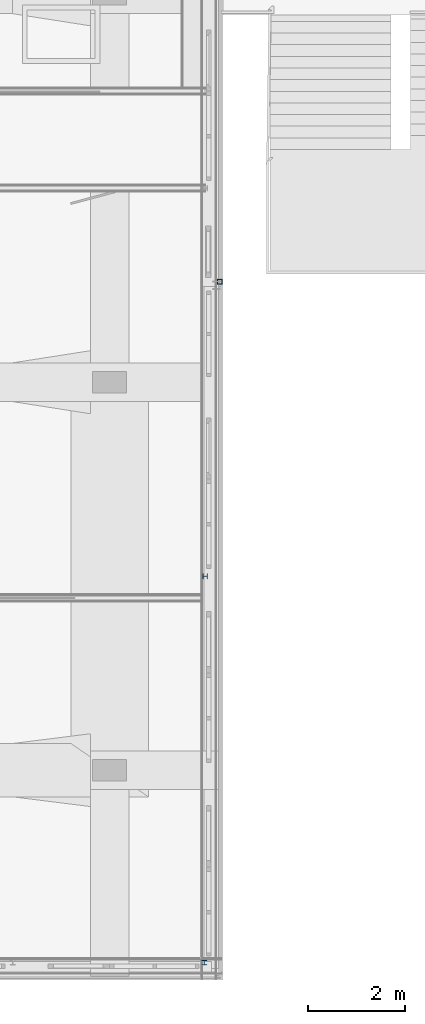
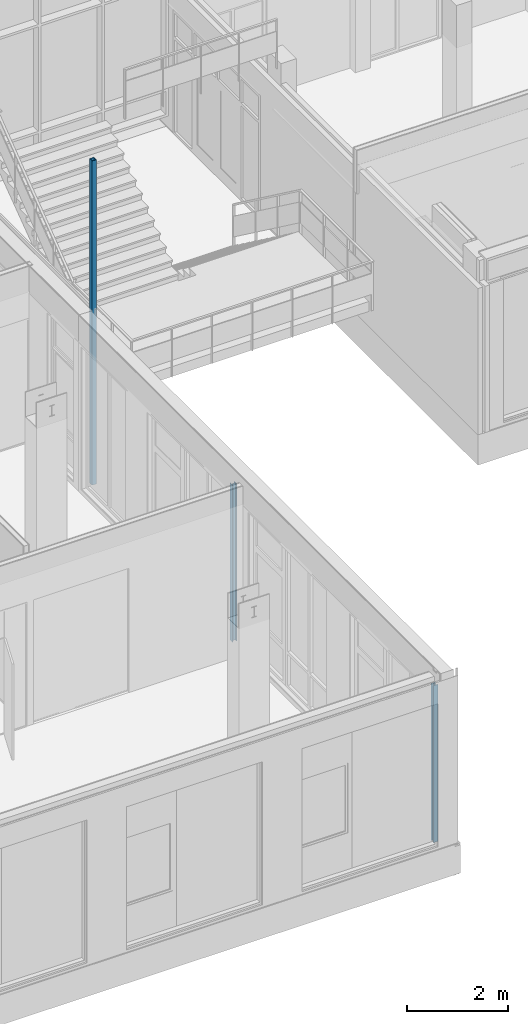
# One storey, part 5 of 94: 3 columns.
"""IFC2X3 building model written with IfcOpenShell, lengths in millimetres."""

from ifc_helpers import new_model, entity, si_unit, converted_unit, derived_unit, money_unit, direction, frame, origin_with_axes, place, context, subcontext, project, spatial, faceted_brep, material, type_object, element, save


model = new_model("IFC2X3")

# Units and contexts
model_context = context("Model", 3, precision=0.01, world=origin_with_axes(), true_north=direction((0.0, 1.0)))
body_context = subcontext(model_context, "Body", "Model", "MODEL_VIEW")
ifc_project = project(units=[si_unit("LENGTHUNIT", "METRE", prefix="MILLI"), si_unit("AREAUNIT", "SQUARE_METRE"), si_unit("VOLUMEUNIT", "CUBIC_METRE"), converted_unit("PLANEANGLEUNIT", "DEGREE", entity("IfcPlaneAngleMeasure", 0.0174532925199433), si_unit("PLANEANGLEUNIT", "RADIAN"), dimensions=[0, 0, 0, 0, 0, 0, 0]), money_unit("EUR"), converted_unit("TIMEUNIT", "Year", entity("IfcTimeMeasure", 31557600.0), si_unit("TIMEUNIT", "SECOND"), dimensions=[0, 0, 1, 0, 0, 0, 0]), si_unit("MASSUNIT", "GRAM", prefix="KILO"), si_unit("THERMODYNAMICTEMPERATUREUNIT", "DEGREE_CELSIUS"), si_unit("LUMINOUSINTENSITYUNIT", "LUMEN"), si_unit("ENERGYUNIT", "JOULE", prefix="MEGA"), derived_unit("THERMALCONDUCTANCEUNIT", [(si_unit("POWERUNIT", "WATT"), 1), (si_unit("LENGTHUNIT", "METRE"), -1), (si_unit("THERMODYNAMICTEMPERATUREUNIT", "KELVIN"), -1)]), derived_unit("SPECIFICHEATCAPACITYUNIT", [(si_unit("ENERGYUNIT", "JOULE"), 1), (si_unit("MASSUNIT", "GRAM", prefix="KILO"), -1), (si_unit("THERMODYNAMICTEMPERATUREUNIT", "KELVIN"), -1)]), derived_unit("MASSDENSITYUNIT", [(si_unit("MASSUNIT", "GRAM", prefix="KILO"), 1), (si_unit("VOLUMEUNIT", "CUBIC_METRE"), -1)])], contexts=[model_context])

# Site, building, storey
site_placement = place(None, origin_with_axes())
site = spatial("IfcSite", under=ifc_project, at=site_placement, Name="<site naam>", CompositionType="ELEMENT")
building_placement = place(site_placement, origin_with_axes())
building = spatial("IfcBuilding", under=site, at=building_placement, Name="<Naam gebouw>", CompositionType="ELEMENT")
storey_placement = place(building_placement, frame((0.0, 0.0, 4250.0), z_axis=(0.0, 0.0, 1.0), x_axis=(1.0, 0.0, 0.0)))
storey = spatial("IfcBuildingStorey", under=building, at=storey_placement, Name="01 1e verdieping", CompositionType="ELEMENT", Elevation=4250.0)

# Columns
ifc_material = material(Name="staal C")
column_type_1 = type_object("IfcColumnType", Name="Profiel H algemeen 100 x 96", PredefinedType="COLUMN")
column_1_placement = place(storey_placement, frame((3950.044467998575, -11968.49999712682, 0.0), z_axis=(0.0, 0.0, 1.0), x_axis=(1.0, 0.0, 0.0)))
element("IfcColumn", 1, at=column_1_placement, inside=storey, type_object=column_type_1, material=ifc_material, Name="28_Kolom_Profiel", ObjectType="COLUMN", context=body_context, shape_type="Brep", body=[
    faceted_brep([(-50.00000009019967, -48.00000045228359, 3789.999753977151), (-50.00000009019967, -48.00000045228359, 0.0), (50.00000009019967, -48.00000045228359, 0.0), (50.00000009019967, -48.00000045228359, 3789.999753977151), (-50.00000014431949, -39.99999797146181, 3789.999753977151), (-50.00000014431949, -39.99999797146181, 0.0), (-2.499999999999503, -39.99999797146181, 0.0), (-2.499999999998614, 39.99999797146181, 0.0), (-50.00000014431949, 39.99999797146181, 0.0), (-50.00000009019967, 48.00000045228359, 0.0), (50.00000009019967, 48.00000045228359, 0.0), (50.00000014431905, 39.99999797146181, 0.0), (2.500000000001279, 39.99999797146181, 0.0), (2.500000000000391, -39.99999797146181, 0.0), (50.00000014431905, -39.99999797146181, 0.0), (50.00000014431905, -39.99999797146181, 3789.999753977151), (2.500000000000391, -39.99999797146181, 3789.999753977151), (2.500000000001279, 39.99999797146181, 3789.999753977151), (50.00000014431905, 39.99999797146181, 3789.999753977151), (50.00000009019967, 48.00000045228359, 3789.999753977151), (-50.00000009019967, 48.00000045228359, 3789.999753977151), (-50.00000014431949, 39.99999797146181, 3789.999753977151), (-2.499999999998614, 39.99999797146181, 3789.999753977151), (-2.499999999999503, -39.99999797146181, 3789.999753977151)], [[[0, 1, 2, 3]], [[4, 5, 1, 0]], [[2, 1, 5, 6, 7, 8, 9, 10, 11, 12, 13, 14]], [[3, 2, 14, 15]], [[4, 0, 3, 15, 16, 17, 18, 19, 20, 21, 22, 23]], [[23, 6, 5, 4]], [[22, 7, 6, 23]], [[21, 8, 7, 22]], [[20, 9, 8, 21]], [[19, 10, 9, 20]], [[18, 11, 10, 19]], [[17, 12, 11, 18]], [[16, 13, 12, 17]], [[15, 14, 13, 16]]]),
])
column_2_placement = place(storey_placement, frame((3967.499999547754, -3999.999999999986, 0.0), z_axis=(0.0, 0.0, 1.0), x_axis=(0.0, -1.0, 0.0)))
element("IfcColumn", 2, at=column_2_placement, inside=storey, type_object=column_type_1, material=ifc_material, Name="28_Kolom_Profiel", ObjectType="COLUMN", context=body_context, shape_type="Brep", body=[
    faceted_brep([(-50.00000009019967, -48.00000045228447, 3789.999753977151), (-50.00000009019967, -48.00000045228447, 0.0), (50.00000009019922, -48.00000045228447, 0.0), (50.00000009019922, -48.00000045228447, 3789.999753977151), (-50.00000014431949, -39.99999797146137, 3789.999753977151), (-50.00000014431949, -39.99999797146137, 0.0), (-2.499999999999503, -39.99999797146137, 0.0), (-2.499999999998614, 39.99999797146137, 0.0), (-50.00000014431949, 39.99999797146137, 0.0), (-50.00000009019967, 48.00000045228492, 0.0), (50.00000009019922, 48.00000045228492, 0.0), (50.00000014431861, 39.99999797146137, 0.0), (2.500000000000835, 39.99999797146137, 0.0), (2.499999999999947, -39.99999797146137, 0.0), (50.00000014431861, -39.99999797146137, 0.0), (50.00000014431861, -39.99999797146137, 3789.999753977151), (2.499999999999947, -39.99999797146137, 3789.999753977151), (2.500000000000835, 39.99999797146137, 3789.999753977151), (50.00000014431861, 39.99999797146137, 3789.999753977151), (50.00000009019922, 48.00000045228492, 3789.999753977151), (-50.00000009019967, 48.00000045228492, 3789.999753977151), (-50.00000014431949, 39.99999797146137, 3789.999753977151), (-2.499999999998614, 39.99999797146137, 3789.999753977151), (-2.499999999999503, -39.99999797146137, 3789.999753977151)], [[[0, 1, 2, 3]], [[4, 5, 1, 0]], [[2, 1, 5, 6, 7, 8, 9, 10, 11, 12, 13, 14]], [[3, 2, 14, 15]], [[4, 0, 3, 15, 16, 17, 18, 19, 20, 21, 22, 23]], [[23, 6, 5, 4]], [[22, 7, 6, 23]], [[21, 8, 7, 22]], [[20, 9, 8, 21]], [[19, 10, 9, 20]], [[18, 11, 10, 19]], [[17, 12, 11, 18]], [[16, 13, 12, 17]], [[15, 14, 13, 16]]]),
])
column_type_2 = type_object("IfcColumnType", Name="Profiel vierkant 100 x 100", PredefinedType="COLUMN")
column_3_placement = place(storey_placement, frame((4270.000156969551, 2074.023024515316, 0.0), z_axis=(0.0, 0.0, 1.0), x_axis=(1.0, 0.0, 0.0)))
element("IfcColumn", 3, at=column_3_placement, inside=storey, type_object=column_type_2, material=ifc_material, Name="28_Kolom_Profiel", ObjectType="COLUMN", context=body_context, shape_type="Brep", body=[
    faceted_brep([(-50.00000001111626, -50.00000001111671, 7819.998748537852), (-50.00000001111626, -50.00000001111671, 0.0), (50.00000001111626, -50.00000001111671, 0.0), (50.00000001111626, -50.00000001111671, 7819.998748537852), (-50.00000001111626, 50.00000001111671, 7819.998748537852), (-50.00000001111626, 50.00000001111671, 0.0), (50.00000001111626, 50.00000001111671, 0.0), (-41.99999993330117, 41.99999993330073, 0.0), (-41.99999993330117, -41.99999993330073, 0.0), (41.99999993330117, -41.99999993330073, 0.0), (41.99999993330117, 41.99999993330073, 0.0), (50.00000001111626, 50.00000001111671, 7819.998748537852), (41.99999993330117, -41.99999993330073, 7819.998748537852), (-41.99999993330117, -41.99999993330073, 7819.998748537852), (-41.99999993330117, 41.99999993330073, 7819.998748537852), (41.99999993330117, 41.99999993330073, 7819.998748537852)], [[[0, 1, 2, 3]], [[4, 5, 1, 0]], [[2, 1, 5, 6], [7, 8, 9, 10]], [[3, 2, 6, 11]], [[4, 0, 3, 11], [12, 13, 14, 15]], [[11, 6, 5, 4]], [[13, 8, 7, 14]], [[12, 9, 8, 13]], [[15, 10, 9, 12]], [[14, 7, 10, 15]]]),
])

save(model, "model.ifc")
